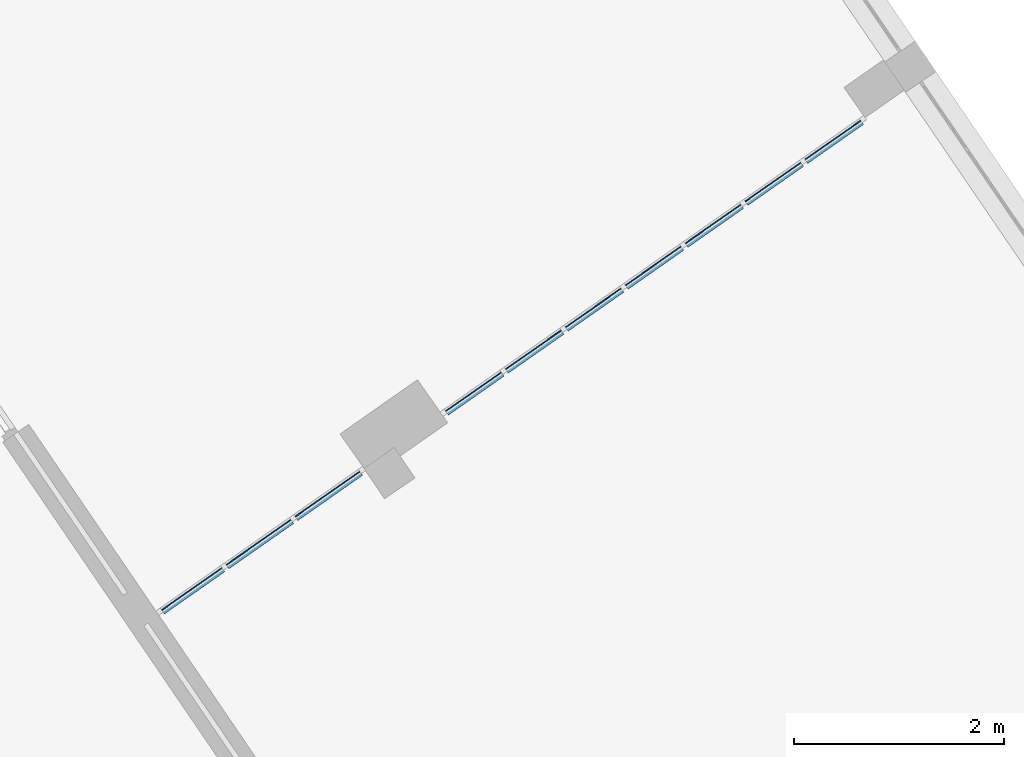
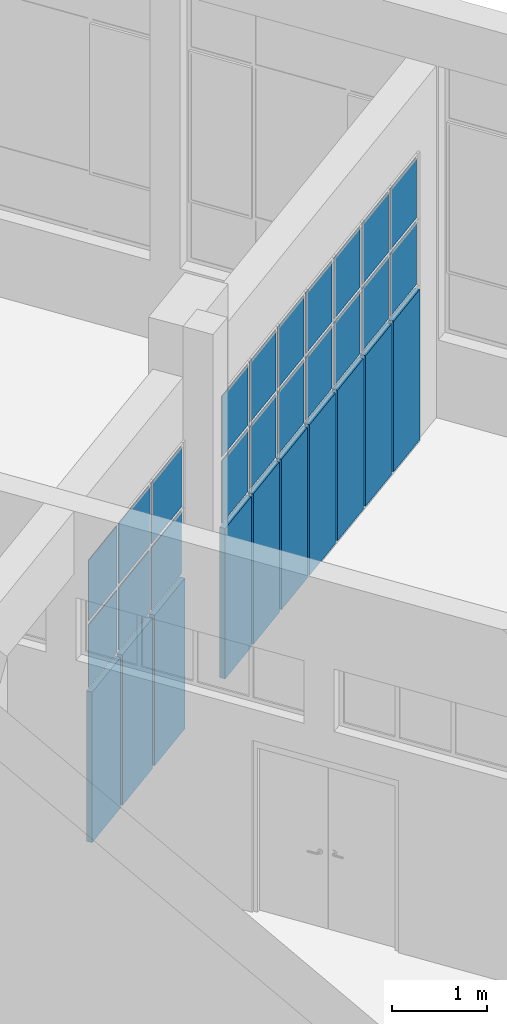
# One storey, part 48 of 157: 30 plates, 2 elements without a shape of their own.
"""IFC2X3 building model written with IfcOpenShell, lengths in millimetres."""

from ifc_helpers import new_model, entity, si_unit, converted_unit, derived_unit, direction, frame, origin, origin_2d_with_axis, place, context, subcontext, project, spatial, rectangle, extrude, source, transform, mapped, material, type_object, type_shapes, element, aggregate, save


model = new_model("IFC2X3")

# Units and contexts
model_context = context("Model", 3, precision=0.01, world=origin(), true_north=direction((6.123031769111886e-17, 1.0)))
body_context = subcontext(model_context, "Body", "Model", "MODEL_VIEW")
ifc_project = project(units=[si_unit("LENGTHUNIT", "METRE", prefix="MILLI"), si_unit("AREAUNIT", "SQUARE_METRE"), si_unit("VOLUMEUNIT", "CUBIC_METRE"), converted_unit("PLANEANGLEUNIT", "DEGREE", entity("IfcRatioMeasure", 0.017453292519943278), si_unit("PLANEANGLEUNIT", "RADIAN"), dimensions=[0, 0, 0, 0, 0, 0, 0]), si_unit("MASSUNIT", "GRAM", prefix="KILO"), derived_unit("MASSDENSITYUNIT", [(si_unit("MASSUNIT", "GRAM", prefix="KILO"), 1), (si_unit("LENGTHUNIT", "METRE"), -3)]), derived_unit("MOMENTOFINERTIAUNIT", [(si_unit("LENGTHUNIT", "METRE"), 4)]), si_unit("TIMEUNIT", "SECOND"), si_unit("FREQUENCYUNIT", "HERTZ"), si_unit("THERMODYNAMICTEMPERATUREUNIT", "DEGREE_CELSIUS"), derived_unit("THERMALTRANSMITTANCEUNIT", [(si_unit("MASSUNIT", "GRAM", prefix="KILO"), 1), (si_unit("THERMODYNAMICTEMPERATUREUNIT", "KELVIN"), -1), (si_unit("TIMEUNIT", "SECOND"), -3)]), derived_unit("THERMALCONDUCTANCEUNIT", [(si_unit("MASSUNIT", "GRAM", prefix="KILO"), 1), (si_unit("LENGTHUNIT", "METRE"), 1), (si_unit("THERMODYNAMICTEMPERATUREUNIT", "KELVIN"), -1), (si_unit("TIMEUNIT", "SECOND"), -3)]), derived_unit("VOLUMETRICFLOWRATEUNIT", [(si_unit("LENGTHUNIT", "METRE"), 3), (si_unit("TIMEUNIT", "SECOND"), -1)]), derived_unit("MASSFLOWRATEUNIT", [(si_unit("MASSUNIT", "GRAM", prefix="KILO"), 1), (si_unit("TIMEUNIT", "SECOND"), -1)]), derived_unit("ROTATIONALFREQUENCYUNIT", [(si_unit("TIMEUNIT", "SECOND"), -1)]), si_unit("ELECTRICCURRENTUNIT", "AMPERE"), si_unit("ELECTRICVOLTAGEUNIT", "VOLT"), si_unit("POWERUNIT", "WATT"), converted_unit("FORCEUNIT", "KIP", entity("IfcRatioMeasure", 2.088543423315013e-05), si_unit("FORCEUNIT", "NEWTON"), dimensions=[1, 1, -2, 0, 0, 0, 0]), si_unit("ILLUMINANCEUNIT", "LUX"), si_unit("LUMINOUSFLUXUNIT", "LUMEN"), si_unit("LUMINOUSINTENSITYUNIT", "CANDELA"), derived_unit("USERDEFINED", [(si_unit("MASSUNIT", "GRAM", prefix="KILO"), -1), (si_unit("LENGTHUNIT", "METRE"), -2), (si_unit("TIMEUNIT", "SECOND"), 3), (si_unit("LUMINOUSFLUXUNIT", "LUMEN"), 1)]), derived_unit("USERDEFINED", [(si_unit("MASSUNIT", "GRAM", prefix="KILO"), 1), (si_unit("LENGTHUNIT", "METRE"), 3), (si_unit("TIMEUNIT", "SECOND"), -3), (si_unit("ELECTRICCURRENTUNIT", "AMPERE"), -2)]), derived_unit("USERDEFINED", [(si_unit("LENGTHUNIT", "METRE"), 2), (si_unit("TIMEUNIT", "SECOND"), -2)]), derived_unit("SOUNDPOWERUNIT", [(si_unit("MASSUNIT", "GRAM", prefix="KILO"), 1), (si_unit("LENGTHUNIT", "METRE"), 2), (si_unit("TIMEUNIT", "SECOND"), -3)]), derived_unit("SOUNDPRESSUREUNIT", [(si_unit("MASSUNIT", "GRAM", prefix="KILO"), 1), (si_unit("LENGTHUNIT", "METRE"), -1), (si_unit("TIMEUNIT", "SECOND"), -2)]), derived_unit("LINEARVELOCITYUNIT", [(si_unit("LENGTHUNIT", "METRE"), 1), (si_unit("TIMEUNIT", "SECOND"), -1)]), si_unit("PRESSUREUNIT", "PASCAL"), derived_unit("USERDEFINED", [(si_unit("LENGTHUNIT", "METRE"), -2), (si_unit("MASSUNIT", "GRAM", prefix="KILO"), 1), (si_unit("TIMEUNIT", "SECOND"), -2)]), derived_unit("LINEARFORCEUNIT", [(si_unit("MASSUNIT", "GRAM", prefix="KILO"), 1), (si_unit("LENGTHUNIT", "METRE"), 1), (si_unit("TIMEUNIT", "SECOND"), -2), (si_unit("LENGTHUNIT", "METRE"), -1)]), derived_unit("PLANARFORCEUNIT", [(si_unit("MASSUNIT", "GRAM", prefix="KILO"), 1), (si_unit("LENGTHUNIT", "METRE"), 1), (si_unit("TIMEUNIT", "SECOND"), -2), (si_unit("LENGTHUNIT", "METRE"), -2)]), derived_unit("SPECIFICHEATCAPACITYUNIT", [(si_unit("LENGTHUNIT", "METRE"), 2), (si_unit("TIMEUNIT", "SECOND"), -2), (si_unit("THERMODYNAMICTEMPERATUREUNIT", "KELVIN"), -1)]), derived_unit("VAPORPERMEABILITYUNIT", [(si_unit("TIMEUNIT", "SECOND"), 1), (si_unit("LENGTHUNIT", "METRE"), -1)]), derived_unit("DYNAMICVISCOSITYUNIT", [(si_unit("MASSUNIT", "GRAM", prefix="KILO"), 1), (si_unit("LENGTHUNIT", "METRE"), -1), (si_unit("TIMEUNIT", "SECOND"), -1)]), derived_unit("THERMALEXPANSIONCOEFFICIENTUNIT", [(si_unit("THERMODYNAMICTEMPERATUREUNIT", "KELVIN"), -1)])], contexts=[model_context])

# Site, building, storey
site_placement = place(None, frame((0.0, 0.0, 0.0), z_axis=(0.0, 0.0, 1.0), x_axis=(0.8191520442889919, 0.5735764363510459, 0.0)))
site = spatial("IfcSite", under=ifc_project, at=site_placement, Name="Default", CompositionType="ELEMENT")
building_placement = place(site_placement, origin())
building = spatial("IfcBuilding", under=site, at=building_placement, CompositionType="ELEMENT")
storey_placement = place(building_placement, origin())
storey = spatial("IfcBuildingStorey", under=building, at=storey_placement, Name="1.EG +0.00", CompositionType="ELEMENT", Elevation=-4.331468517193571e-12)

# Curtain wall, plates
curtain_wall_type = type_object("IfcCurtainWallType", Name="Curtain Wall:Curtain_Wall_CJC_Int5", PredefinedType="NOTDEFINED")
curtain_wall_1_placement = place(storey_placement, origin())
curtain_wall_1 = element("IfcCurtainWall", 1, at=curtain_wall_1_placement, inside=storey, type_object=curtain_wall_type, Name="Curtain Wall:Curtain_Wall_CJC_Int5", ObjectType="Curtain Wall:Curtain_Wall_CJC_Int5")
ifc_material_1 = material(Name="Default")
plate_type_1 = type_object("IfcPlateType", Name="System Panel:Solid", PredefinedType="CURTAIN_PANEL", material=ifc_material_1)
shared_shape_1 = source(origin(), body_context, "Body", "SweptSolid", [
    extrude(rectangle(XDim=63.5, YDim=646.0959133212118, at=origin_2d_with_axis()), frame((0.0, -12.700000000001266, 0.0), z_axis=(0.0, 0.0, 1.0), x_axis=(0.0, 1.0, 0.0)), (0.0, 0.0, 1.0), 1925.0000000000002),
])
type_shapes(plate_type_1, [shared_shape_1])
plate_1_placement = place(curtain_wall_1_placement, frame((-210563.56653285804, 79246.35891435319, 50.0)))
plate_1 = element("IfcPlate", 2, at=plate_1_placement, type_object=plate_type_1, material=ifc_material_1, Name="System Panel:Solid", ObjectType="System Panel:Solid", context=body_context, shape_type="MappedRepresentation", body=[
    mapped(shared_shape_1, transform((0.0, 0.0, 0.0), scale=1.0)),
])
plate_2_placement = place(curtain_wall_1_placement, frame((-209867.4706196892, 79246.35891435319, 50.0)))
plate_2 = element("IfcPlate", 3, at=plate_2_placement, type_object=plate_type_1, material=ifc_material_1, Name="System Panel:Solid", ObjectType="System Panel:Solid", context=body_context, shape_type="MappedRepresentation", body=[
    mapped(shared_shape_1, transform((0.0, 0.0, 0.0), scale=1.0)),
])
plate_3_placement = place(curtain_wall_1_placement, frame((-209171.37470667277, 79246.35891435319, 50.0)))
plate_3 = element("IfcPlate", 4, at=plate_3_placement, type_object=plate_type_1, material=ifc_material_1, Name="System Panel:Solid", ObjectType="System Panel:Solid", context=body_context, shape_type="MappedRepresentation", body=[
    mapped(shared_shape_1, transform((0.0, 0.0, 0.0), scale=1.0)),
])
plate_4_placement = place(curtain_wall_1_placement, frame((-208475.27879365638, 79246.35891435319, 50.0)))
plate_4 = element("IfcPlate", 5, at=plate_4_placement, type_object=plate_type_1, material=ifc_material_1, Name="System Panel:Solid", ObjectType="System Panel:Solid", context=body_context, shape_type="MappedRepresentation", body=[
    mapped(shared_shape_1, transform((0.0, 0.0, 0.0), scale=1.0)),
])
plate_5_placement = place(curtain_wall_1_placement, frame((-207779.18288063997, 79246.35891435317, 50.0)))
plate_5 = element("IfcPlate", 6, at=plate_5_placement, type_object=plate_type_1, material=ifc_material_1, Name="System Panel:Solid", ObjectType="System Panel:Solid", context=body_context, shape_type="MappedRepresentation", body=[
    mapped(shared_shape_1, transform((0.0, 0.0, 0.0), scale=1.0)),
])
plate_6_placement = place(curtain_wall_1_placement, frame((-207083.08696762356, 79246.35891435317, 50.0)))
plate_6 = element("IfcPlate", 7, at=plate_6_placement, type_object=plate_type_1, material=ifc_material_1, Name="System Panel:Solid", ObjectType="System Panel:Solid", context=body_context, shape_type="MappedRepresentation", body=[
    mapped(shared_shape_1, transform((0.0, 0.0, 0.0), scale=1.0)),
])
plate_7_placement = place(curtain_wall_1_placement, frame((-206386.99105445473, 79246.35891435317, 50.0)))
plate_7 = element("IfcPlate", 8, at=plate_7_placement, type_object=plate_type_1, material=ifc_material_1, Name="System Panel:Solid", ObjectType="System Panel:Solid", context=body_context, shape_type="MappedRepresentation", body=[
    mapped(shared_shape_1, transform((0.0, 0.0, 0.0), scale=1.0)),
])
ifc_material_2 = material(Name="Glass")
plate_type_2 = type_object("IfcPlateType", Name="System Panel:Glazed_CJC", PredefinedType="CURTAIN_PANEL", material=ifc_material_2)
shared_shape_2 = source(origin(), body_context, "Body", "SweptSolid", [
    extrude(rectangle(XDim=10.0, YDim=646.0959133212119, at=origin_2d_with_axis()), frame((0.0, 0.0, 0.0), z_axis=(0.0, 0.0, 1.0), x_axis=(0.0, 1.0, 0.0)), (0.0, 0.0, 1.0), 799.9999999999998),
])
type_shapes(plate_type_2, [shared_shape_2])
plate_8_placement = place(curtain_wall_1_placement, frame((-210563.56653285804, 79246.35891435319, 2025.0)))
plate_8 = element("IfcPlate", 9, at=plate_8_placement, type_object=plate_type_2, material=ifc_material_2, Name="System Panel:Glazed_CJC", ObjectType="System Panel:Glazed_CJC", context=body_context, shape_type="MappedRepresentation", body=[
    mapped(shared_shape_2, transform((0.0, 0.0, 0.0), scale=1.0)),
])
plate_9_placement = place(curtain_wall_1_placement, frame((-209867.4706196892, 79246.35891435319, 2025.0)))
plate_9 = element("IfcPlate", 10, at=plate_9_placement, type_object=plate_type_2, material=ifc_material_2, Name="System Panel:Glazed_CJC", ObjectType="System Panel:Glazed_CJC", context=body_context, shape_type="MappedRepresentation", body=[
    mapped(shared_shape_2, transform((0.0, 0.0, 0.0), scale=1.0)),
])
plate_10_placement = place(curtain_wall_1_placement, frame((-209171.37470667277, 79246.35891435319, 2025.0)))
plate_10 = element("IfcPlate", 11, at=plate_10_placement, type_object=plate_type_2, material=ifc_material_2, Name="System Panel:Glazed_CJC", ObjectType="System Panel:Glazed_CJC", context=body_context, shape_type="MappedRepresentation", body=[
    mapped(shared_shape_2, transform((0.0, 0.0, 0.0), scale=1.0)),
])
plate_11_placement = place(curtain_wall_1_placement, frame((-208475.27879365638, 79246.35891435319, 2025.0)))
plate_11 = element("IfcPlate", 12, at=plate_11_placement, type_object=plate_type_2, material=ifc_material_2, Name="System Panel:Glazed_CJC", ObjectType="System Panel:Glazed_CJC", context=body_context, shape_type="MappedRepresentation", body=[
    mapped(shared_shape_2, transform((0.0, 0.0, 0.0), scale=1.0)),
])
plate_12_placement = place(curtain_wall_1_placement, frame((-207779.18288063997, 79246.35891435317, 2025.0)))
plate_12 = element("IfcPlate", 13, at=plate_12_placement, type_object=plate_type_2, material=ifc_material_2, Name="System Panel:Glazed_CJC", ObjectType="System Panel:Glazed_CJC", context=body_context, shape_type="MappedRepresentation", body=[
    mapped(shared_shape_2, transform((0.0, 0.0, 0.0), scale=1.0)),
])
plate_13_placement = place(curtain_wall_1_placement, frame((-207083.08696762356, 79246.35891435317, 2025.0)))
plate_13 = element("IfcPlate", 14, at=plate_13_placement, type_object=plate_type_2, material=ifc_material_2, Name="System Panel:Glazed_CJC", ObjectType="System Panel:Glazed_CJC", context=body_context, shape_type="MappedRepresentation", body=[
    mapped(shared_shape_2, transform((0.0, 0.0, 0.0), scale=1.0)),
])
plate_14_placement = place(curtain_wall_1_placement, frame((-206386.99105445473, 79246.35891435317, 2025.0)))
plate_14 = element("IfcPlate", 15, at=plate_14_placement, type_object=plate_type_2, material=ifc_material_2, Name="System Panel:Glazed_CJC", ObjectType="System Panel:Glazed_CJC", context=body_context, shape_type="MappedRepresentation", body=[
    mapped(shared_shape_2, transform((0.0, 0.0, 0.0), scale=1.0)),
])
plate_type_3 = type_object("IfcPlateType", Name="System Panel:Glazed_CJC", PredefinedType="CURTAIN_PANEL", material=ifc_material_2)
shared_shape_3 = source(origin(), body_context, "Body", "SweptSolid", [
    extrude(rectangle(XDim=10.0, YDim=646.0959133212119, at=origin_2d_with_axis()), frame((0.0, 0.0, 0.0), z_axis=(0.0, 0.0, 1.0), x_axis=(0.0, 1.0, 0.0)), (0.0, 0.0, 1.0), 774.9999999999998),
])
type_shapes(plate_type_3, [shared_shape_3])
plate_15_placement = place(curtain_wall_1_placement, frame((-210563.56653285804, 79246.35891435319, 2875.0)))
plate_15 = element("IfcPlate", 16, at=plate_15_placement, type_object=plate_type_3, material=ifc_material_2, Name="System Panel:Glazed_CJC", ObjectType="System Panel:Glazed_CJC", context=body_context, shape_type="MappedRepresentation", body=[
    mapped(shared_shape_3, transform((0.0, 0.0, 0.0), scale=1.0)),
])
plate_16_placement = place(curtain_wall_1_placement, frame((-209867.4706196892, 79246.35891435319, 2875.0)))
plate_16 = element("IfcPlate", 17, at=plate_16_placement, type_object=plate_type_3, material=ifc_material_2, Name="System Panel:Glazed_CJC", ObjectType="System Panel:Glazed_CJC", context=body_context, shape_type="MappedRepresentation", body=[
    mapped(shared_shape_3, transform((0.0, 0.0, 0.0), scale=1.0)),
])
plate_17_placement = place(curtain_wall_1_placement, frame((-209171.37470667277, 79246.35891435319, 2875.0)))
plate_17 = element("IfcPlate", 18, at=plate_17_placement, type_object=plate_type_3, material=ifc_material_2, Name="System Panel:Glazed_CJC", ObjectType="System Panel:Glazed_CJC", context=body_context, shape_type="MappedRepresentation", body=[
    mapped(shared_shape_3, transform((0.0, 0.0, 0.0), scale=1.0)),
])
plate_18_placement = place(curtain_wall_1_placement, frame((-208475.27879365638, 79246.35891435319, 2875.0)))
plate_18 = element("IfcPlate", 19, at=plate_18_placement, type_object=plate_type_3, material=ifc_material_2, Name="System Panel:Glazed_CJC", ObjectType="System Panel:Glazed_CJC", context=body_context, shape_type="MappedRepresentation", body=[
    mapped(shared_shape_3, transform((0.0, 0.0, 0.0), scale=1.0)),
])
plate_19_placement = place(curtain_wall_1_placement, frame((-207779.18288063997, 79246.35891435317, 2875.0)))
plate_19 = element("IfcPlate", 20, at=plate_19_placement, type_object=plate_type_3, material=ifc_material_2, Name="System Panel:Glazed_CJC", ObjectType="System Panel:Glazed_CJC", context=body_context, shape_type="MappedRepresentation", body=[
    mapped(shared_shape_3, transform((0.0, 0.0, 0.0), scale=1.0)),
])
plate_20_placement = place(curtain_wall_1_placement, frame((-207083.08696762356, 79246.35891435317, 2875.0)))
plate_20 = element("IfcPlate", 21, at=plate_20_placement, type_object=plate_type_3, material=ifc_material_2, Name="System Panel:Glazed_CJC", ObjectType="System Panel:Glazed_CJC", context=body_context, shape_type="MappedRepresentation", body=[
    mapped(shared_shape_3, transform((0.0, 0.0, 0.0), scale=1.0)),
])
plate_21_placement = place(curtain_wall_1_placement, frame((-206386.99105445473, 79246.35891435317, 2875.0)))
plate_21 = element("IfcPlate", 22, at=plate_21_placement, type_object=plate_type_3, material=ifc_material_2, Name="System Panel:Glazed_CJC", ObjectType="System Panel:Glazed_CJC", context=body_context, shape_type="MappedRepresentation", body=[
    mapped(shared_shape_3, transform((0.0, 0.0, 0.0), scale=1.0)),
])
aggregate(curtain_wall_1, [plate_1, plate_2, plate_3, plate_4, plate_5, plate_6, plate_7, plate_8, plate_9, plate_10, plate_11, plate_12, plate_13, plate_14, plate_15, plate_16, plate_17, plate_18, plate_19, plate_20, plate_21])

curtain_wall_2_placement = place(storey_placement, origin())
curtain_wall_2 = element("IfcCurtainWall", 23, at=curtain_wall_2_placement, inside=storey, type_object=curtain_wall_type, Name="Curtain Wall:Curtain_Wall_CJC_Int5", ObjectType="Curtain Wall:Curtain_Wall_CJC_Int5")
plate_type_4 = type_object("IfcPlateType", Name="System Panel:Solid", PredefinedType="CURTAIN_PANEL", material=ifc_material_1)
shared_shape_4 = source(origin(), body_context, "Body", "SweptSolid", [
    extrude(rectangle(XDim=63.5, YDim=750.7135105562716, at=origin_2d_with_axis()), frame((0.0, 12.699999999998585, 0.0), z_axis=(0.0, 0.0, 1.0), x_axis=(0.0, 1.0, 0.0)), (0.0, 0.0, 1.0), 1925.0000000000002),
])
type_shapes(plate_type_4, [shared_shape_4])
plate_22_placement = place(curtain_wall_2_placement, frame((-212259.78603936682, 79245.87276745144, 50.0), z_axis=(0.0, 0.0, 1.0), x_axis=(-1.0, 0.0, 0.0)))
plate_22 = element("IfcPlate", 24, at=plate_22_placement, type_object=plate_type_4, material=ifc_material_1, Name="System Panel:Solid", ObjectType="System Panel:Solid", context=body_context, shape_type="MappedRepresentation", body=[
    mapped(shared_shape_4, transform((0.0, 0.0, 0.0), scale=1.0)),
])
plate_23_placement = place(curtain_wall_2_placement, frame((-213060.49954977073, 79245.87276745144, 50.0), z_axis=(0.0, 0.0, 1.0), x_axis=(-1.0, 0.0, 0.0)))
plate_23 = element("IfcPlate", 25, at=plate_23_placement, type_object=plate_type_4, material=ifc_material_1, Name="System Panel:Solid", ObjectType="System Panel:Solid", context=body_context, shape_type="MappedRepresentation", body=[
    mapped(shared_shape_4, transform((0.0, 0.0, 0.0), scale=1.0)),
])
plate_type_5 = type_object("IfcPlateType", Name="System Panel:Solid", PredefinedType="CURTAIN_PANEL", material=ifc_material_1)
shared_shape_5 = source(origin(), body_context, "Body", "SweptSolid", [
    extrude(rectangle(XDim=63.5, YDim=700.7135105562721, at=origin_2d_with_axis()), frame((0.0, 12.699999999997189, 0.0), z_axis=(0.0, 0.0, 1.0), x_axis=(0.0, 1.0, 0.0)), (0.0, 0.0, 1.0), 1925.0000000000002),
])
type_shapes(plate_type_5, [shared_shape_5])
plate_24_placement = place(curtain_wall_2_placement, frame((-213836.21306017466, 79245.87276745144, 50.0), z_axis=(0.0, 0.0, 1.0), x_axis=(-1.0, 0.0, 0.0)))
plate_24 = element("IfcPlate", 26, at=plate_24_placement, type_object=plate_type_5, material=ifc_material_1, Name="System Panel:Solid", ObjectType="System Panel:Solid", context=body_context, shape_type="MappedRepresentation", body=[
    mapped(shared_shape_5, transform((0.0, 0.0, 0.0), scale=1.0)),
])
plate_type_6 = type_object("IfcPlateType", Name="System Panel:Glazed_CJC", PredefinedType="CURTAIN_PANEL", material=ifc_material_2)
shared_shape_6 = source(origin(), body_context, "Body", "SweptSolid", [
    extrude(rectangle(XDim=10.0, YDim=750.7135105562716, at=origin_2d_with_axis()), frame((0.0, 0.0, 0.0), z_axis=(0.0, 0.0, 1.0), x_axis=(0.0, 1.0, 0.0)), (0.0, 0.0, 1.0), 799.9999999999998),
])
type_shapes(plate_type_6, [shared_shape_6])
plate_25_placement = place(curtain_wall_2_placement, frame((-212259.78603936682, 79245.87276745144, 2025.0), z_axis=(0.0, 0.0, 1.0), x_axis=(-1.0, 0.0, 0.0)))
plate_25 = element("IfcPlate", 27, at=plate_25_placement, type_object=plate_type_6, material=ifc_material_2, Name="System Panel:Glazed_CJC", ObjectType="System Panel:Glazed_CJC", context=body_context, shape_type="MappedRepresentation", body=[
    mapped(shared_shape_6, transform((0.0, 0.0, 0.0), scale=1.0)),
])
plate_26_placement = place(curtain_wall_2_placement, frame((-213060.49954977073, 79245.87276745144, 2025.0), z_axis=(0.0, 0.0, 1.0), x_axis=(-1.0, 0.0, 0.0)))
plate_26 = element("IfcPlate", 28, at=plate_26_placement, type_object=plate_type_6, material=ifc_material_2, Name="System Panel:Glazed_CJC", ObjectType="System Panel:Glazed_CJC", context=body_context, shape_type="MappedRepresentation", body=[
    mapped(shared_shape_6, transform((0.0, 0.0, 0.0), scale=1.0)),
])
plate_type_7 = type_object("IfcPlateType", Name="System Panel:Glazed_CJC", PredefinedType="CURTAIN_PANEL", material=ifc_material_2)
shared_shape_7 = source(origin(), body_context, "Body", "SweptSolid", [
    extrude(rectangle(XDim=10.0, YDim=700.7135105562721, at=origin_2d_with_axis()), frame((0.0, 0.0, 0.0), z_axis=(0.0, 0.0, 1.0), x_axis=(0.0, 1.0, 0.0)), (0.0, 0.0, 1.0), 799.9999999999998),
])
type_shapes(plate_type_7, [shared_shape_7])
plate_27_placement = place(curtain_wall_2_placement, frame((-213836.21306017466, 79245.87276745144, 2025.0), z_axis=(0.0, 0.0, 1.0), x_axis=(-1.0, 0.0, 0.0)))
plate_27 = element("IfcPlate", 29, at=plate_27_placement, type_object=plate_type_7, material=ifc_material_2, Name="System Panel:Glazed_CJC", ObjectType="System Panel:Glazed_CJC", context=body_context, shape_type="MappedRepresentation", body=[
    mapped(shared_shape_7, transform((0.0, 0.0, 0.0), scale=1.0)),
])
plate_type_8 = type_object("IfcPlateType", Name="System Panel:Glazed_CJC", PredefinedType="CURTAIN_PANEL", material=ifc_material_2)
shared_shape_8 = source(origin(), body_context, "Body", "SweptSolid", [
    extrude(rectangle(XDim=10.0, YDim=750.7135105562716, at=origin_2d_with_axis()), frame((0.0, 0.0, 0.0), z_axis=(0.0, 0.0, 1.0), x_axis=(0.0, 1.0, 0.0)), (0.0, 0.0, 1.0), 774.9999999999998),
])
type_shapes(plate_type_8, [shared_shape_8])
plate_28_placement = place(curtain_wall_2_placement, frame((-212259.78603936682, 79245.87276745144, 2875.0), z_axis=(0.0, 0.0, 1.0), x_axis=(-1.0, 0.0, 0.0)))
plate_28 = element("IfcPlate", 30, at=plate_28_placement, type_object=plate_type_8, material=ifc_material_2, Name="System Panel:Glazed_CJC", ObjectType="System Panel:Glazed_CJC", context=body_context, shape_type="MappedRepresentation", body=[
    mapped(shared_shape_8, transform((0.0, 0.0, 0.0), scale=1.0)),
])
plate_29_placement = place(curtain_wall_2_placement, frame((-213060.49954977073, 79245.87276745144, 2875.0), z_axis=(0.0, 0.0, 1.0), x_axis=(-1.0, 0.0, 0.0)))
plate_29 = element("IfcPlate", 31, at=plate_29_placement, type_object=plate_type_8, material=ifc_material_2, Name="System Panel:Glazed_CJC", ObjectType="System Panel:Glazed_CJC", context=body_context, shape_type="MappedRepresentation", body=[
    mapped(shared_shape_8, transform((0.0, 0.0, 0.0), scale=1.0)),
])
plate_type_9 = type_object("IfcPlateType", Name="System Panel:Glazed_CJC", PredefinedType="CURTAIN_PANEL", material=ifc_material_2)
shared_shape_9 = source(origin(), body_context, "Body", "SweptSolid", [
    extrude(rectangle(XDim=10.0, YDim=700.7135105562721, at=origin_2d_with_axis()), frame((0.0, 0.0, 0.0), z_axis=(0.0, 0.0, 1.0), x_axis=(0.0, 1.0, 0.0)), (0.0, 0.0, 1.0), 774.9999999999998),
])
type_shapes(plate_type_9, [shared_shape_9])
plate_30_placement = place(curtain_wall_2_placement, frame((-213836.21306017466, 79245.87276745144, 2875.0), z_axis=(0.0, 0.0, 1.0), x_axis=(-1.0, 0.0, 0.0)))
plate_30 = element("IfcPlate", 32, at=plate_30_placement, type_object=plate_type_9, material=ifc_material_2, Name="System Panel:Glazed_CJC", ObjectType="System Panel:Glazed_CJC", context=body_context, shape_type="MappedRepresentation", body=[
    mapped(shared_shape_9, transform((0.0, 0.0, 0.0), scale=1.0)),
])
aggregate(curtain_wall_2, [plate_22, plate_23, plate_24, plate_25, plate_26, plate_27, plate_28, plate_29, plate_30])

save(model, "model.ifc")
